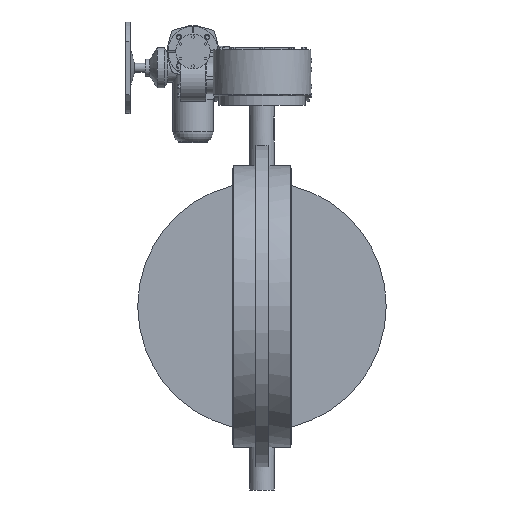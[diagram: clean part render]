
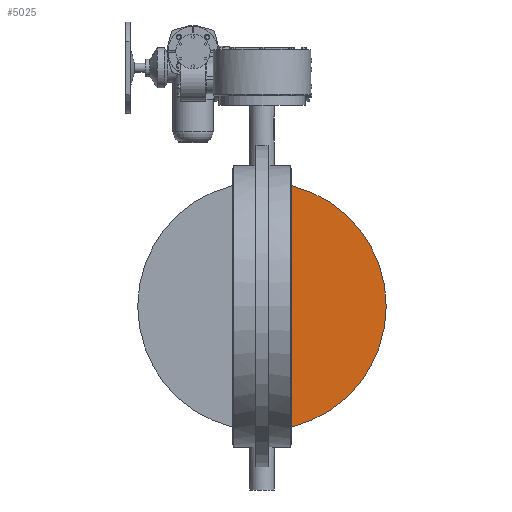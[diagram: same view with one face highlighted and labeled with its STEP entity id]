
A CAD part, front view. The second image highlights one B-rep face of the part: STEP entity #5025.
In plain terms, the highlighted planar face has unit normal (0, -1, 0).
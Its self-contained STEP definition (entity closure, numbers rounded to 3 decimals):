
#5025=ADVANCED_FACE('',(#9529),#9531,.T.);
#9529=FACE_BOUND('',#9530,.T.);
#9530=EDGE_LOOP('',(#12210,#12211));
#9531=PLANE('',#9532);
#9532=AXIS2_PLACEMENT_3D('',#9533,#9534,#9535);
#9533=CARTESIAN_POINT('',(0.,-10.,0.));
#9534=DIRECTION('',(0.,-1.,0.));
#9535=DIRECTION('',(0.,0.,1.));
#12210=ORIENTED_EDGE('',*,*,#13540,.T.);
#12211=ORIENTED_EDGE('',*,*,#13548,.T.);
#13540=EDGE_CURVE('',#15804,#15801,#15805,.T.);
#13548=EDGE_CURVE('',#15801,#15804,#15818,.T.);
#15801=VERTEX_POINT('',#24228);
#15804=VERTEX_POINT('',#24273);
#15805=LINE('',#24274,#24275);
#15818=CIRCLE('',#24424,432.35);
#24228=CARTESIAN_POINT('',(30.923,-10.,-431.243));
#24273=CARTESIAN_POINT('',(30.923,-10.,431.243));
#24274=CARTESIAN_POINT('',(30.923,-10.,431.243));
#24275=VECTOR('',#24276,1.);
#24276=DIRECTION('',(0.,0.,-1.));
#24424=AXIS2_PLACEMENT_3D('',#24425,#24426,#24427);
#24425=CARTESIAN_POINT('',(0.,-10.,0.));
#24426=DIRECTION('',(0.,-1.,0.));
#24427=DIRECTION('',(0.072,0.,-0.997));
